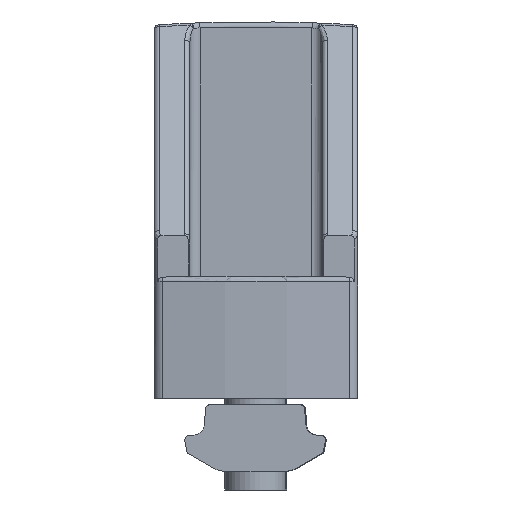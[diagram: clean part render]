
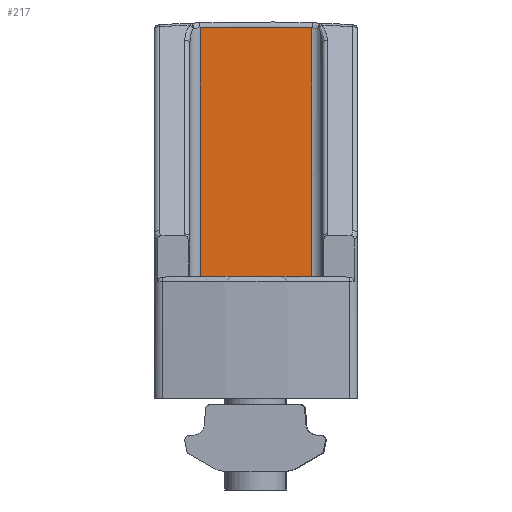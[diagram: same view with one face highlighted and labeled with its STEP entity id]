
A CAD part, left-side view. The second image highlights one B-rep face of the part: STEP entity #217.
In plain terms, the highlighted planar face has unit normal (-1, 0, 0) as drawn and (1, 0, 0) by its records, which use the part's own axes.
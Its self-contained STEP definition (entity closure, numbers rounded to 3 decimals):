
#217=ADVANCED_FACE('',(#471),#472,.T.);
#471=FACE_OUTER_BOUND('',#838,.T.);
#472=PLANE('',#839);
#838=EDGE_LOOP('',(#2185,#2186,#2187,#2188));
#839=AXIS2_PLACEMENT_3D('',#2189,#2190,#2191);
#2185=ORIENTED_EDGE('',*,*,#3091,.T.);
#2186=ORIENTED_EDGE('',*,*,#3092,.T.);
#2187=ORIENTED_EDGE('',*,*,#3093,.F.);
#2188=ORIENTED_EDGE('',*,*,#3094,.F.);
#2189=CARTESIAN_POINT('',(92.,12.,4.5));
#2190=DIRECTION('',(1.0,0.0,0.0));
#2191=DIRECTION('',(0.0,1.0,0.0));
#3091=EDGE_CURVE('',#3722,#3723,#3724,.T.);
#3092=EDGE_CURVE('',#3723,#3725,#3726,.T.);
#3093=EDGE_CURVE('',#3727,#3725,#3728,.T.);
#3094=EDGE_CURVE('',#3722,#3727,#3729,.T.);
#3722=VERTEX_POINT('',#4296);
#3723=VERTEX_POINT('',#4297);
#3724=LINE('',#4298,#4299);
#3725=VERTEX_POINT('',#4300);
#3726=CIRCLE('',#4301,166.317);
#3727=VERTEX_POINT('',#4302);
#3728=LINE('',#4303,#4304);
#3729=LINE('',#4305,#4306);
#4296=CARTESIAN_POINT('',(92.,12.,4.5));
#4297=CARTESIAN_POINT('',(92.,36.409,4.5));
#4298=CARTESIAN_POINT('',(92.,12.,4.5));
#4299=VECTOR('',#5457,1.0);
#4300=CARTESIAN_POINT('',(92.,36.409,15.5));
#4301=AXIS2_PLACEMENT_3D('',#5458,#5459,#5460);
#4302=CARTESIAN_POINT('',(92.,12.,15.5));
#4303=CARTESIAN_POINT('',(92.,12.,15.5));
#4304=VECTOR('',#5461,1.0);
#4305=CARTESIAN_POINT('',(92.,12.,4.5));
#4306=VECTOR('',#5462,1.0);
#5457=DIRECTION('',(0.0,1.0,0.0));
#5458=CARTESIAN_POINT('',(92.,-129.817,10.));
#5459=DIRECTION('',(1.0,0.0,0.0));
#5460=DIRECTION('',(0.0,0.0,-1.0));
#5461=DIRECTION('',(0.0,1.0,0.0));
#5462=DIRECTION('',(0.0,0.0,1.0));
